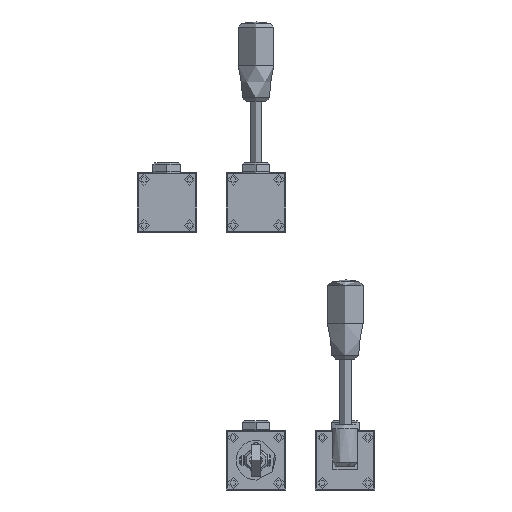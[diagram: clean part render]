
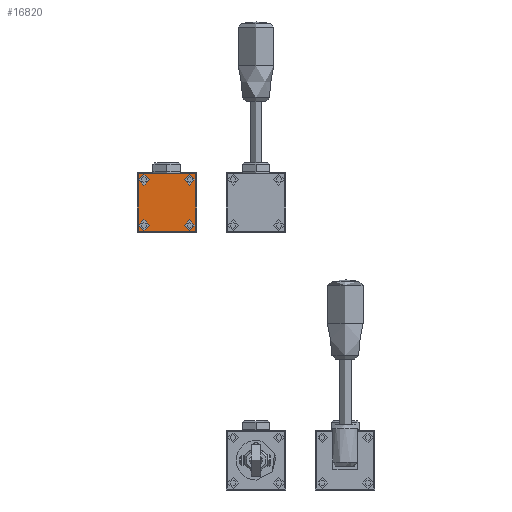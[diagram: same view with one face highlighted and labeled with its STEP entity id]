
A CAD part, left-side view. The second image highlights one B-rep face of the part: STEP entity #16820.
In plain terms, the highlighted planar face has unit normal (-1, 0, 0).
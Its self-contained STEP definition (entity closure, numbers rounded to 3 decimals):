
#16820=ADVANCED_FACE('', (#16830,#16840,#16850,#16860,#16870), #16880, 
.T.);
#60810=AXIS2_PLACEMENT_3D('Ax2Pl3d', #60820, #60830, #60840);
#60850=AXIS2_PLACEMENT_3D('Ax2Pl3d', #60860, #60870, #60880);
#60890=AXIS2_PLACEMENT_3D('Ax2Pl3d', #60900, #60910, #60920);
#60930=AXIS2_PLACEMENT_3D('Ax2Pl3d', #60940, #60950, #60960);
#60970=AXIS2_PLACEMENT_3D('Ax2Pl3d', #60980, #60990, #61000);
#60820=CARTESIAN_POINT('HicPkt', (-203.,119.5,130.5));
#201730=CARTESIAN_POINT('', (-203.,90.5,130.5));
#201740=CARTESIAN_POINT('', (-203.,119.5,130.5));
#201750=CARTESIAN_POINT('', (-203.,90.5,130.5));
#201760=CARTESIAN_POINT('', (-203.,90.5,159.5));
#201770=CARTESIAN_POINT('', (-203.,90.5,159.5));
#201780=CARTESIAN_POINT('', (-203.,119.5,159.5));
#201790=CARTESIAN_POINT('', (-203.,119.5,159.5));
#201800=CARTESIAN_POINT('', (-203.,119.5,130.5));
#60860=CARTESIAN_POINT('HicPkt', (-203.,116.5,133.5));
#201810=CARTESIAN_POINT('', (-203.,118.25,133.5));
#60900=CARTESIAN_POINT('HicPkt', (-203.,93.5,133.5));
#201820=CARTESIAN_POINT('', (-203.,95.25,133.5));
#60940=CARTESIAN_POINT('HicPkt', (-203.,116.5,156.5));
#201830=CARTESIAN_POINT('', (-203.,118.25,156.5));
#60980=CARTESIAN_POINT('HicPkt', (-203.,93.5,156.5));
#201840=CARTESIAN_POINT('', (-203.,95.25,156.5));
#213690=CIRCLE('Circle', #60850, 1.75);
#213700=CIRCLE('Circle', #60890, 1.75);
#213710=CIRCLE('Circle', #60930, 1.75);
#213720=CIRCLE('Circle', #60970, 1.75);
#60830=DIRECTION('Axis', (-1.,0.,0.)
);
#60840=DIRECTION('RefDirection', (0.,
0.,-1.));
#274060=DIRECTION('', (0.,-1.,0.));
#274070=DIRECTION('', (0.,0.,1.));
#274080=DIRECTION('', (0.,1.,0.));
#274090=DIRECTION('', (0.,0.,-1.));
#60870=DIRECTION('Axis', (-1.,0.,0.)
);
#60880=DIRECTION('RefDirection', (0.,
0.,-1.));
#60910=DIRECTION('Axis', (-1.,0.,0.)
);
#60920=DIRECTION('RefDirection', (0.,
0.,-1.));
#60950=DIRECTION('Axis', (-1.,0.,0.)
);
#60960=DIRECTION('RefDirection', (0.,
0.,-1.));
#60990=DIRECTION('Axis', (-1.,0.,0.)
);
#61000=DIRECTION('RefDirection', (0.,
0.,-1.));
#295200=EDGE_CURVE('', #295210, #295220, #295230, .T.);
#295240=EDGE_CURVE('', #295220, #295250, #295260, .T.);
#295270=EDGE_CURVE('', #295250, #295280, #295290, .T.);
#295300=EDGE_CURVE('', #295280, #295210, #295310, .T.);
#295320=EDGE_CURVE('', #295330, #295330, #213690, .T.);
#295340=EDGE_CURVE('', #295350, #295350, #213700, .T.);
#295360=EDGE_CURVE('', #295370, #295370, #213710, .T.);
#295380=EDGE_CURVE('', #295390, #295390, #213720, .T.);
#332460=EDGE_LOOP('Edge_loop', (#332470,#332480,#332490,#332500));
#332510=EDGE_LOOP('Edge_loop', (#332520));
#332530=EDGE_LOOP('Edge_loop', (#332540));
#332550=EDGE_LOOP('Edge_loop', (#332560));
#332570=EDGE_LOOP('Edge_loop', (#332580));
#16840=FACE_BOUND('', #332510, .T.);
#16850=FACE_BOUND('', #332530, .T.);
#16860=FACE_BOUND('', #332550, .T.);
#16870=FACE_BOUND('', #332570, .T.);
#16830=FACE_OUTER_BOUND('Face_outer_bound', #332460, .T.);
#295230=LINE('Line', #201730, #379070);
#295260=LINE('Line', #201760, #379080);
#295290=LINE('Line', #201780, #379090);
#295310=LINE('Line', #201800, #379100);
#332470=ORIENTED_EDGE('', *, *, #295200, .T.);
#332480=ORIENTED_EDGE('', *, *, #295240, .T.);
#332490=ORIENTED_EDGE('', *, *, #295270, .T.);
#332500=ORIENTED_EDGE('', *, *, #295300, .T.);
#332520=ORIENTED_EDGE('', *, *, #295320, .F.);
#332540=ORIENTED_EDGE('', *, *, #295340, .F.);
#332560=ORIENTED_EDGE('', *, *, #295360, .F.);
#332580=ORIENTED_EDGE('', *, *, #295380, .F.);
#16880=PLANE('Plane', #60810);
#379070=VECTOR('', #274060, 29.);
#379080=VECTOR('', #274070, 29.);
#379090=VECTOR('', #274080, 29.);
#379100=VECTOR('', #274090, 29.);
#295210=VERTEX_POINT('', #201740);
#295220=VERTEX_POINT('', #201750);
#295250=VERTEX_POINT('', #201770);
#295280=VERTEX_POINT('', #201790);
#295330=VERTEX_POINT('', #201810);
#295350=VERTEX_POINT('', #201820);
#295370=VERTEX_POINT('', #201830);
#295390=VERTEX_POINT('', #201840);
